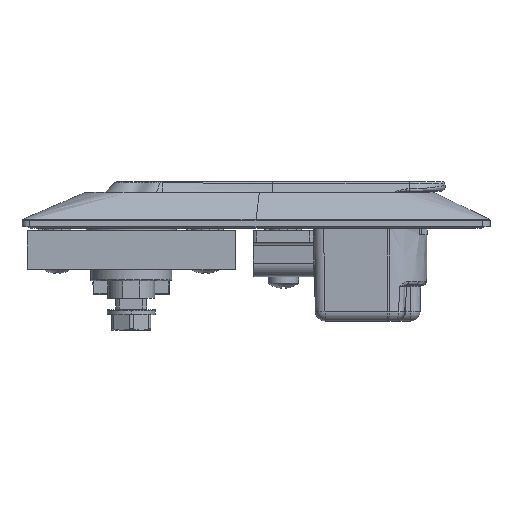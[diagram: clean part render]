
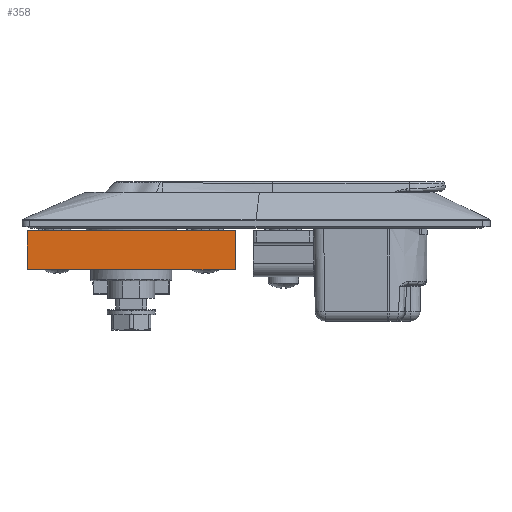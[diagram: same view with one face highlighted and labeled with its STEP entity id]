
A CAD part, left-side view. The second image highlights one B-rep face of the part: STEP entity #358.
In plain terms, the highlighted planar face has unit normal (-1, 0, 0) as drawn and (0, 1, 0) by its records, which use the part's own axes.
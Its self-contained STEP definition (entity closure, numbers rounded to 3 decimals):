
#358 = ADVANCED_FACE ( 'NONE', ( #39148 ), #7647, .F. ) ;
#2199 = VERTEX_POINT ( 'NONE', #66457 ) ;
#3169 = VECTOR ( 'NONE', #66547, 1000. ) ;
#4329 = CARTESIAN_POINT ( 'NONE',  ( 26.65, 14.25, 0. ) ) ;
#4921 = LINE ( 'NONE', #27649, #3169 ) ;
#7647 = PLANE ( 'NONE',  #52142 ) ;
#7846 = EDGE_CURVE ( 'NONE', #15337, #63965, #17146, .T. ) ;
#10414 = EDGE_LOOP ( 'NONE', ( #23934, #33884, #36558, #53861 ) ) ;
#12134 = DIRECTION ( 'NONE',  ( -1., 0., 0. ) ) ;
#13220 = DIRECTION ( 'NONE',  ( 0., 0., -1. ) ) ;
#15337 = VERTEX_POINT ( 'NONE', #54585 ) ;
#17146 = LINE ( 'NONE', #4329, #30094 ) ;
#18664 = VECTOR ( 'NONE', #12134, 1000. ) ;
#23934 = ORIENTED_EDGE ( 'NONE', *, *, #53908, .F. ) ;
#27649 = CARTESIAN_POINT ( 'NONE',  ( -26.65, 14.25, 10. ) ) ;
#29430 = CARTESIAN_POINT ( 'NONE',  ( -26.65, 14.25, 10. ) ) ;
#30094 = VECTOR ( 'NONE', #42927, 1000. ) ;
#32125 = VERTEX_POINT ( 'NONE', #35349 ) ;
#33884 = ORIENTED_EDGE ( 'NONE', *, *, #56648, .F. ) ;
#35349 = CARTESIAN_POINT ( 'NONE',  ( -26.65, 14.25, 10. ) ) ;
#35451 = CARTESIAN_POINT ( 'NONE',  ( 26.65, 14.25, 10. ) ) ;
#36558 = ORIENTED_EDGE ( 'NONE', *, *, #47733, .F. ) ;
#36750 = LINE ( 'NONE', #45164, #18664 ) ;
#39043 = VECTOR ( 'NONE', #68603, 1000. ) ;
#39148 = FACE_OUTER_BOUND ( 'NONE', #10414, .T. ) ;
#40772 = LINE ( 'NONE', #35451, #39043 ) ;
#41394 = CARTESIAN_POINT ( 'NONE',  ( 26.65, 14.25, 0. ) ) ;
#42927 = DIRECTION ( 'NONE',  ( 1., 0., 0. ) ) ;
#45164 = CARTESIAN_POINT ( 'NONE',  ( -26.65, 14.25, 10. ) ) ;
#46252 = DIRECTION ( 'NONE',  ( 0., -1., 0. ) ) ;
#47733 = EDGE_CURVE ( 'NONE', #63965, #2199, #40772, .T. ) ;
#52142 = AXIS2_PLACEMENT_3D ( 'NONE', #29430, #46252, #13220 ) ;
#53861 = ORIENTED_EDGE ( 'NONE', *, *, #7846, .F. ) ;
#53908 = EDGE_CURVE ( 'NONE', #32125, #15337, #4921, .T. ) ;
#54585 = CARTESIAN_POINT ( 'NONE',  ( -26.65, 14.25, 0. ) ) ;
#56648 = EDGE_CURVE ( 'NONE', #2199, #32125, #36750, .T. ) ;
#63965 = VERTEX_POINT ( 'NONE', #41394 ) ;
#66457 = CARTESIAN_POINT ( 'NONE',  ( 26.65, 14.25, 10. ) ) ;
#66547 = DIRECTION ( 'NONE',  ( 0., 0., -1. ) ) ;
#68603 = DIRECTION ( 'NONE',  ( 0., 0., 1. ) ) ;
